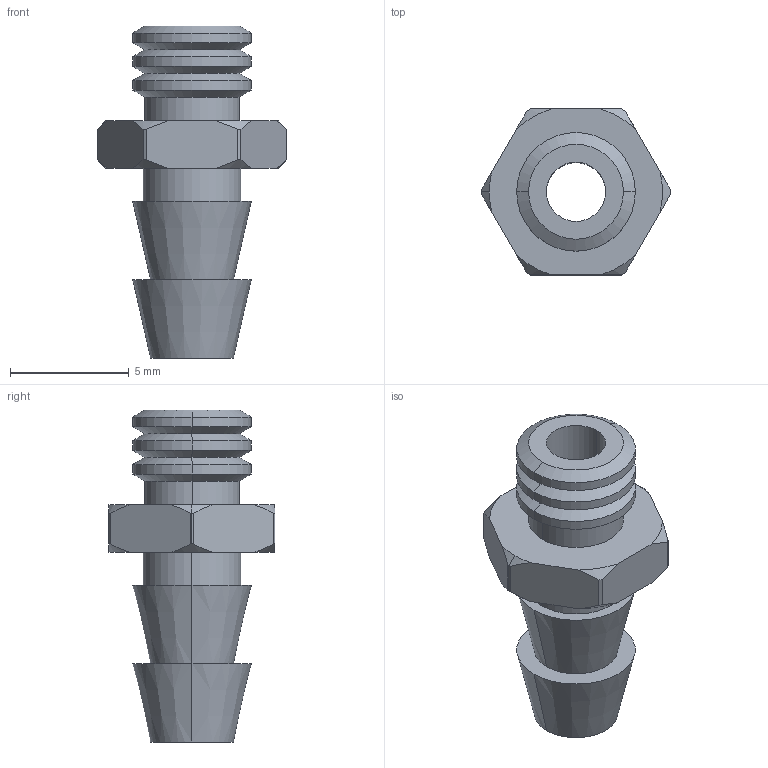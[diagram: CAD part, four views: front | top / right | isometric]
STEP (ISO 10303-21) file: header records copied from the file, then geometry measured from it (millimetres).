
FILE_DESCRIPTION (( 'STEP AP214' ), '1' );
FILE_NAME ('VM21-M5.STEP', '2023-03-06T02:00:05', ( 'Windows User' ), ( 'P R C' ), 'SwSTEP 2.0', 'SolidWorks 2019', '' );
FILE_SCHEMA (( 'AUTOMOTIVE_DESIGN' ));
Length unit declared in the file: millimetre
Products named in the file (1): VM21-M5
Bounding box: 8 x 7 x 14 mm (x, y, z)
Volume: 193.6 mm3; surface area: 432.8 mm2
Topology: 1 solids, 1 shells, 61 faces, 146 edges, 91 vertices
Faces by surface type: cone 30, cylinder 19, plane 12
Entity records: 1837 total; most frequent: CARTESIAN_POINT 371, DIRECTION 313, ORIENTED_EDGE 292, EDGE_CURVE 146, AXIS2_PLACEMENT_3D 129, VERTEX_POINT 91, EDGE_LOOP 67, CIRCLE 67
